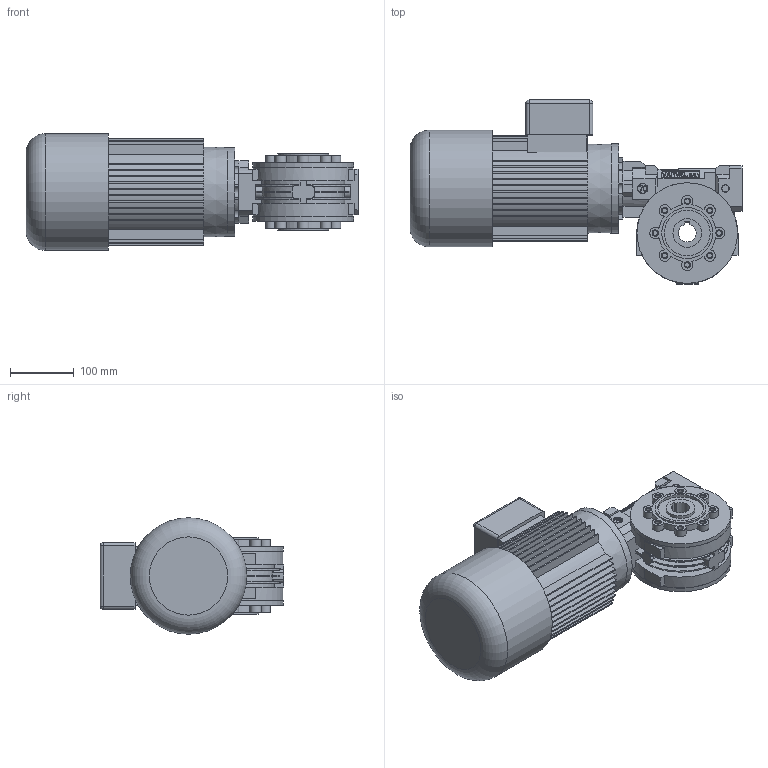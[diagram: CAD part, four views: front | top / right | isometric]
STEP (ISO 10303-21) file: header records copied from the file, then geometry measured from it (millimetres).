
FILE_DESCRIPTION( ( 'Unknown' ), '1' );
FILE_NAME( 'E:/services/configuratordownloads/customers/VARVEL/RS/download/2071CA812BD6AEF9B32EE3C55D7F61B6/STEP/2071CA812BD6AEF9B32EE3C55D7F61B6.3d.stp', 'Unknown', ( 'Unknown' ), ( 'Unknown' ), 'PSStep 10.1', 'Unknown', ' ' );
FILE_SCHEMA( ( 'AUTOMOTIVE_DESIGN { 1 0 10303 214 1 1 1 1 }' ) );
Length unit declared in the file: millimetre
Products named in the file (1): 573101
Bounding box: 521.5 x 289 x 183 mm (x, y, z)
Volume: 9253473.8 mm3; surface area: 625314.8 mm2
Topology: 1 solids, 4 shells, 787 faces, 2045 edges, 1353 vertices
Faces by surface type: plane 563, cylinder 214, sphere 4, cone 3, torus 3
Full cylindrical faces by diameter (mm): 6.8 x4, 7.6 x16, 10 x16, 11 x8, 24 x1, 25 x1, 26 x1, 30 x1, 45 x2, 58 x1, 60.1 x1, 62 x2, 70 x3, 72 x2, 75 x2, 80 x2, 85 x1, 94 x1, 95 x1, 120 x1, 140 x1, 158 x2, 183 x1
Entity records: 29894 total; most frequent: CARTESIAN_POINT 4380, DIRECTION 3944, ORIENTED_EDGE 3872, EDGE_CURVE 1936, LINE 1422, VECTOR 1422, VERTEX_POINT 1325, AXIS2_PLACEMENT_3D 1261
